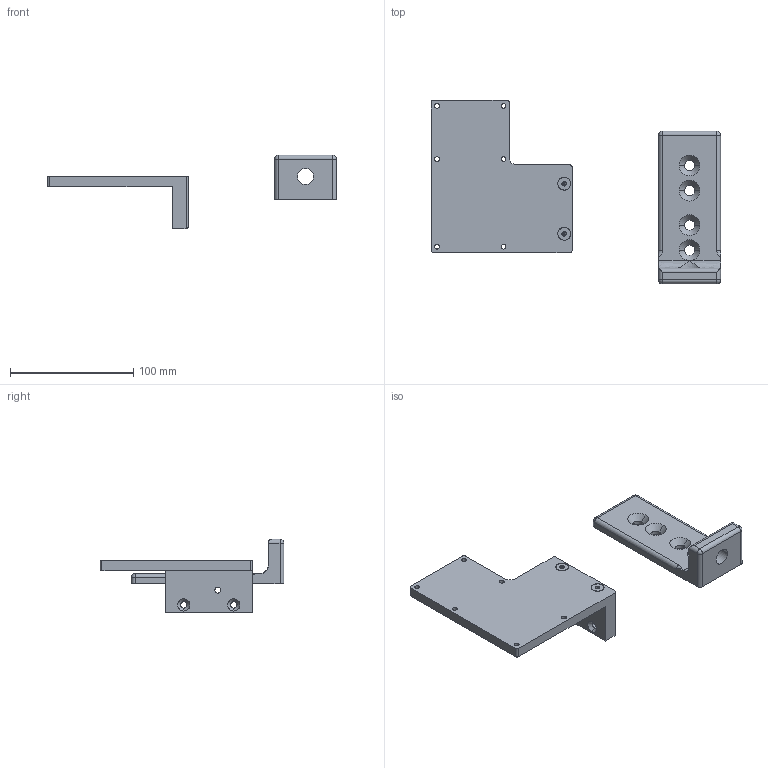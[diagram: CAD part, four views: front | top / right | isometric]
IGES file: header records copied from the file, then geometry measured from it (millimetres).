
Global section: file name: No Iges File Name specified; native system: Autodesk Inventor 2010; preprocessor: AutoDesk Inventor Iges Exporter R2010; author: mlampen; date: 20170424.125224; units: inch
Bounding box: 234.57 x 149.22 x 59.69 mm (x, y, z)
Volume: 185189.3 mm3; surface area: 52239.7 mm2
Topology: 2 solids, 2 shells, 153 faces, 374 edges, 224 vertices
Faces by surface type: revolution 74, plane 47, cylinder 17, bspline 5, torus 4, cone 4, sphere 2
